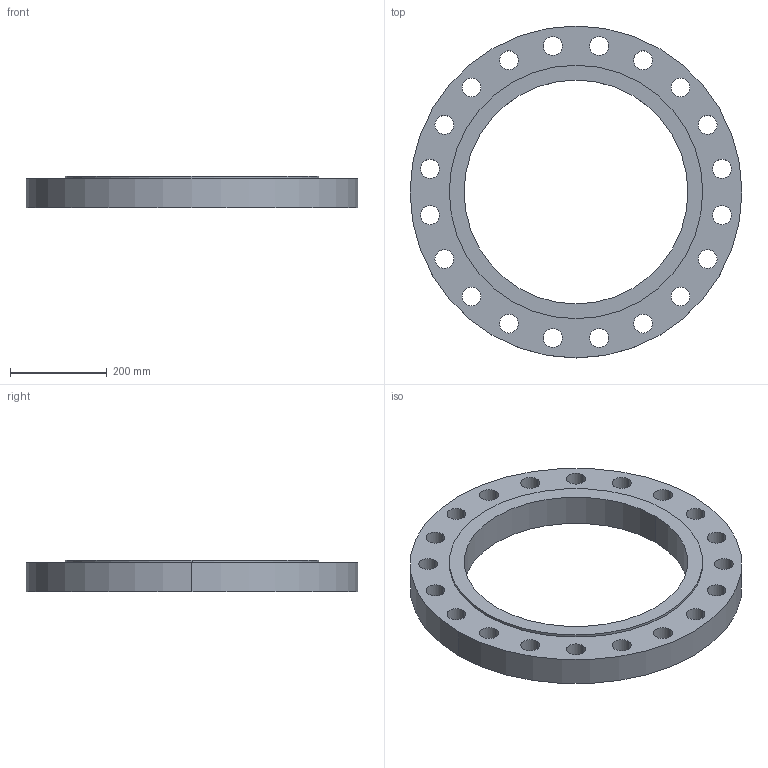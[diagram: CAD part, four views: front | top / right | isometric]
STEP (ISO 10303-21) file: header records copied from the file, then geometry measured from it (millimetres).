
FILE_DESCRIPTION (( 'STEP AP214' ), '1' );
FILE_NAME ('PN40 DN450 Type 01 - Type E Face.STEP', '2018-12-29T02:51:27', ( '' ), ( '' ), 'SwSTEP 2.0', 'SolidWorks 2019', '' );
FILE_SCHEMA (( 'AUTOMOTIVE_DESIGN' ));
Length unit declared in the file: millimetre
Products named in the file (1): PN40 DN450 Type 01 - Type E Face
Bounding box: 685 x 685 x 66 mm (x, y, z)
Volume: 10967934.6 mm3; surface area: 737273.7 mm2
Topology: 1 solids, 1 shells, 49 faces, 138 edges, 92 vertices
Faces by surface type: cylinder 46, plane 3
Entity records: 1762 total; most frequent: DIRECTION 330, CARTESIAN_POINT 280, ORIENTED_EDGE 276, AXIS2_PLACEMENT_3D 142, EDGE_CURVE 138, VERTEX_POINT 92, CIRCLE 92, EDGE_LOOP 92
